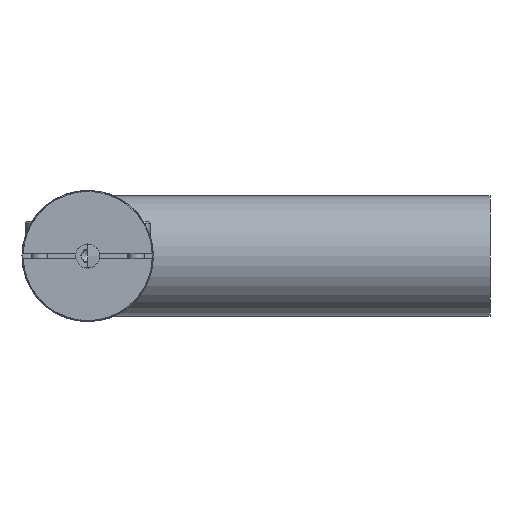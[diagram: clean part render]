
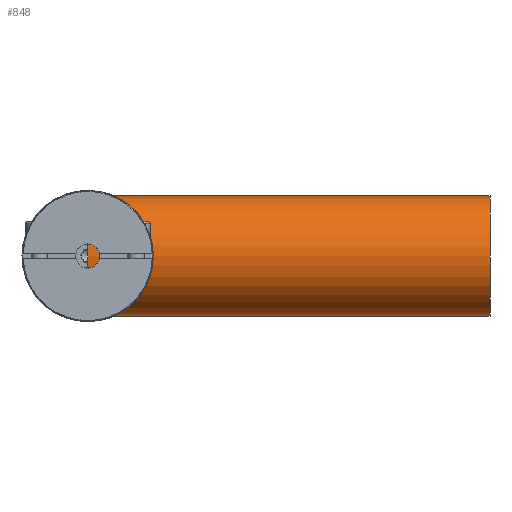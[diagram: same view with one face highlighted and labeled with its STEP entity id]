
A CAD part, left-side view. The second image highlights one B-rep face of the part: STEP entity #848.
In plain terms, the highlighted cylindrical face has radius 15 mm (diameter 30 mm), a full revolution.
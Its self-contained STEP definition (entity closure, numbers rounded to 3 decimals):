
#848 = ADVANCED_FACE( '', ( #1307, #1308 ), #1309, .T. );
#1307 = FACE_OUTER_BOUND( '', #1547, .T. );
#1308 = FACE_OUTER_BOUND( '', #1548, .T. );
#1309 = CYLINDRICAL_SURFACE( '', #1549, 15. );
#1547 = EDGE_LOOP( '', ( #2033 ) );
#1548 = EDGE_LOOP( '', ( #2034 ) );
#1549 = AXIS2_PLACEMENT_3D( '', #2035, #2036, #2037 );
#2033 = ORIENTED_EDGE( '', *, *, #2303, .T. );
#2034 = ORIENTED_EDGE( '', *, *, #2304, .F. );
#2035 = CARTESIAN_POINT( '', ( 0., -100., 0. ) );
#2036 = DIRECTION( '', ( 0., -1., 0. ) );
#2037 = DIRECTION( '', ( 0., 0., 1. ) );
#2303 = EDGE_CURVE( '', #2621, #2621, #2622, .T. );
#2304 = EDGE_CURVE( '', #2623, #2623, #2624, .T. );
#2621 = VERTEX_POINT( '', #3061 );
#2622 = CIRCLE( '', #3062, 15. );
#2623 = VERTEX_POINT( '', #3063 );
#2624 = CIRCLE( '', #3064, 15. );
#3061 = CARTESIAN_POINT( '', ( 15., -100., 0. ) );
#3062 = AXIS2_PLACEMENT_3D( '', #3215, #3216, #3217 );
#3063 = CARTESIAN_POINT( '', ( 15., 0., 0. ) );
#3064 = AXIS2_PLACEMENT_3D( '', #3218, #3219, #3220 );
#3215 = CARTESIAN_POINT( '', ( 0., -100., 0. ) );
#3216 = DIRECTION( '', ( 0., 1., 0. ) );
#3217 = DIRECTION( '', ( 1., 0., 0. ) );
#3218 = CARTESIAN_POINT( '', ( 0., 0., 0. ) );
#3219 = DIRECTION( '', ( 0., 1., 0. ) );
#3220 = DIRECTION( '', ( 1., 0., 0. ) );
